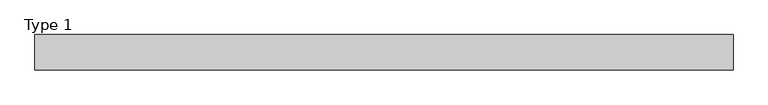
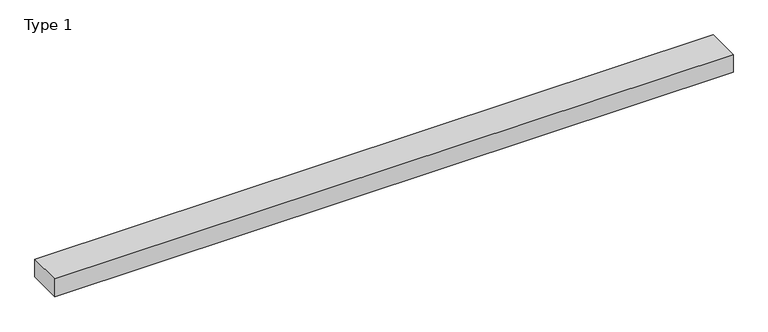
"""IFC4 building model written with IfcOpenShell, lengths in millimetres: proxy geometry, Window Header_Lentil : Type 1."""

from ifc_helpers import new_model, si_unit, frame, origin, place, context, project, spatial, polyline, outline, extrude, source, transform, mapped, element, save


def type_1_ff3e687f(model_context):
    return source(origin(), model_context, "Body", "SweptSolid", [
        extrude(outline(polyline([(-789.4, 394.5), (1039.4, 394.5), (1039.4, 301.6), (-789.4, 301.6), (-789.4, 394.5)])), frame((0.0, 0.0, 2250.0), z_axis=(0.0, 0.0, 1.0), x_axis=(1.0, 0.0, 0.0)), (0.0, 0.0, 1.0), 50.8),
    ])


if __name__ == "__main__":
    model = new_model("IFC4")
    model_context = context("Model", 3, world=origin())
    ifc_project = project(units=[si_unit("LENGTHUNIT", "METRE", prefix="MILLI")], contexts=[model_context])
    site = spatial("IfcSite", under=ifc_project)
    building = spatial("IfcBuilding", under=site)
    placement = place(None, origin())
    type_1_shape = type_1_ff3e687f(model_context)
    element("IfcBuildingElementProxy", 1, Name="Window Header_Lentil : Type 1", ObjectType="Window Header_Lentil : Type 1", at=placement, inside=building, context=model_context, shape_type="MappedRepresentation", body=[
        mapped(type_1_shape, transform((0.0, 0.0, 0.0), x_axis=(1.0, 0.0, 0.0), y_axis=(0.0, 1.0, 0.0), z_axis=(0.0, 0.0, 1.0))),
    ])
    save(model, "model.ifc")
